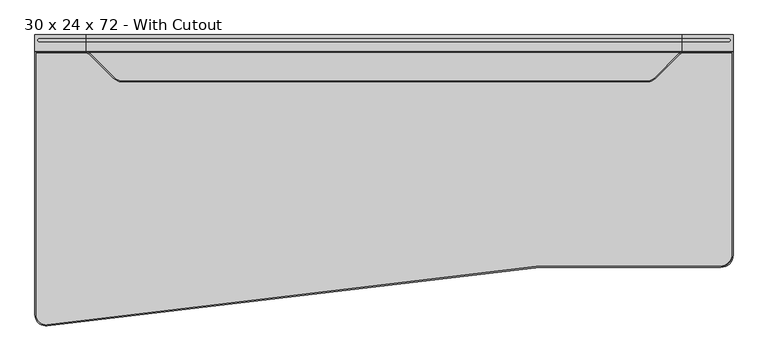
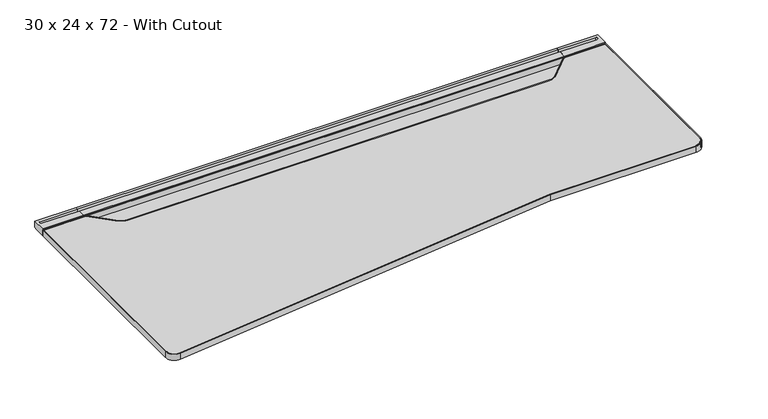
"""IFC4 building model written with IfcOpenShell, lengths in millimetres: furniture geometry, Steelcase - C Scape - Desking - Left Hand Transition - Non Sliding : 30 x 24 x 72 - With Cutout."""

from ifc_helpers import new_model, si_unit, point, frame, frame_2d, origin, place, context, project, spatial, polyline, circle_curve, trimmed, segment, composite_curve, outline, extrude, faceted_brep, source, transform, mapped, element, save
from ifc_brep_helpers import plane_surface, cylinder_surface, revolved_surface, advanced_brep


def furniture_30_x_24_x_72_with_cutout_2aaaa9fd(model_context):
    return source(origin(), model_context, "Body", "SolidModel", [
        advanced_brep(
        [(131.4322876, -45.3135132, 703.3768), (131.4322876, -4.0331902, 703.3768), (131.4322876, -3.2278472, 705.1038636), (131.4322876, 0.0, 705.1038636), (131.4322876, 0.0, 725.932), (131.4322876, -8.5111084, 725.932), (131.4322876, -8.5111084, 713.486), (131.4322876, -19.3290527, 713.486), (131.4322876, -19.3290527, 725.932), (131.4322876, -42.7750923, 725.932), (131.4322876, -42.7750923, 722.4268341), (131.4322876, -45.3135132, 722.4268341), (-1.5875, -45.3135132, 703.3768), (-1.5875, -45.3135132, 722.4268341), (-1.5875, -42.7750923, 722.4268341), (-1.5875, -42.7750923, 725.932), (-1.5875, 0.0, 725.932), (-1.5875, 0.0, 705.1038636), (-1.5875, -3.2278472, 705.1038636), (-1.5875, -4.0331902, 703.3768), (10.1745728, -19.3290527, 725.932), (10.1745728, -8.5111084, 725.932), (10.1745728, -8.5111084, 713.486), (10.1745728, -19.3290527, 713.486)],
        [
            (0, 1),
            (1, 2),
            (2, 3),
            (3, 4),
            (4, 5),
            (5, 6),
            (6, 7),
            (7, 8),
            (8, 9),
            (9, 10),
            (10, 11),
            (11, 0),
            (12, 13),
            (13, 14),
            (14, 15),
            (15, 16),
            (16, 17),
            (17, 18),
            (18, 19),
            (19, 12),
            (0, 12),
            (19, 1),
            (18, 2),
            (17, 3),
            (16, 4),
            (15, 9),
            (8, 20),
            (20, 21, circle_curve(frame((10.1745728, -13.9200806, 725.932), z_axis=(0.0, 0.0, -1.0), x_axis=(1.0, 0.0, 0.0)), 5.4089722)),
            (21, 5),
            (14, 10),
            (13, 11),
            (6, 22),
            (22, 23, circle_curve(frame((10.1745728, -13.9200806, 713.486), z_axis=(0.0, 0.0, 1.0), x_axis=(1.0, 0.0, 0.0)), 5.4089722)),
            (23, 7),
            (21, 22),
            (20, 23),
        ],
        [
            plane_surface(frame((131.4322876, -45.3135132, 703.3768), z_axis=(1.0, 0.0, 0.0), x_axis=(0.0, 1.0, 0.0))),
            plane_surface(frame((-1.5875, -45.3135132, 703.3768), z_axis=(-1.0, 0.0, 0.0), x_axis=(0.0, -1.0, 0.0))),
            plane_surface(frame((131.4322876, -45.3135132, 703.3768), z_axis=(0.0, 0.0, -1.0), x_axis=(-1.0, 0.0, 0.0))),
            plane_surface(frame((131.4322876, -4.0331902, 703.3768), z_axis=(0.0, 0.9063077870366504, -0.4226182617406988), x_axis=(-1.0, 0.0, 0.0))),
            plane_surface(frame((131.4322876, -3.2278472, 705.1038636), z_axis=(0.0, 0.0, -1.0), x_axis=(-1.0, 0.0, 0.0))),
            plane_surface(frame((131.4322876, 0.0, 705.1038636), z_axis=(0.0, 1.0, 0.0), x_axis=(-1.0, 0.0, 0.0))),
            plane_surface(frame((131.4322876, 0.0, 725.932), z_axis=(0.0, 0.0, 1.0), x_axis=(-1.0, 0.0, 0.0))),
            plane_surface(frame((131.4322876, -42.7750923, 725.932), z_axis=(0.0, -1.0, 0.0), x_axis=(-1.0, 0.0, 0.0))),
            plane_surface(frame((131.4322876, -42.7750923, 722.4268341), z_axis=(0.0, 0.0, 1.0), x_axis=(-1.0, 0.0, 0.0))),
            plane_surface(frame((131.4322876, -45.3135132, 722.4268341), z_axis=(0.0, -1.0, 0.0), x_axis=(-1.0, 0.0, 0.0))),
            plane_surface(frame((10.1745728, -8.5111084, 713.486), z_axis=(0.0, 0.0, 1.0), x_axis=(1.0, 0.0, 0.0))),
            plane_surface(frame((131.4322876, -8.5111084, 731.2180541), z_axis=(0.0, -1.0, 0.0), x_axis=(0.0, 0.0, -1.0))),
            revolved_surface(polyline([(15.583545, -13.9200806, 725.932), (15.583545, -13.9200806, 713.486)]), (10.1745728, -13.9200806, 713.486), (0.0, 0.0, 1.0)),
            plane_surface(frame((10.1745728, -19.3290527, 731.2180541), z_axis=(0.0, 1.0, 0.0), x_axis=(0.0, 0.0, -1.0))),
        ],
        [
            (0, [[1, 2, 3, 4, 5, 6, 7, 8, 9, 10, 11, 12]]),
            (1, [[13, 14, 15, 16, 17, 18, 19, 20]]),
            (2, [[-1, 21, -20, 22]]),
            (3, [[-2, -22, -19, 23]]),
            (4, [[-3, -23, -18, 24]]),
            (5, [[-4, -24, -17, 25]]),
            (6, [[-16, 26, -9, 27, 28, 29, -5, -25]]),
            (7, [[-10, -26, -15, 30]]),
            (8, [[-11, -30, -14, 31]]),
            (9, [[-12, -31, -13, -21]]),
            (10, [[32, 33, 34, -7]]),
            (11, [[-32, -6, -29, 35]]),
            (12, [[-33, -35, -28, 36]]),
            (13, [[-34, -36, -27, -8]]),
        ],
    ),
        faceted_brep([(17.4632632, -565.0752923, 700.7093833), (31.7383728, -565.0752923, 693.4200291), (113.1775879, -565.0752923, 693.4200291), (115.7981301, -565.0752923, 679.3263935), (131.4322876, -565.0752923, 679.3263935), (131.4322876, -565.0752923, 703.3768), (17.4632632, -565.0752923, 703.3768), (17.4632632, -4.0331902, 700.7093833), (17.4632632, -4.0331902, 703.3768), (131.4322876, -4.0331902, 703.3768), (131.4322876, -4.0331902, 629.3866), (125.0838347, -4.0331902, 629.3866), (113.1775879, -4.0331902, 693.4200291), (31.7383728, -4.0331902, 693.4200291), (125.0838347, -364.1172546, 629.3866), (117.9634051, -376.5599397, 667.6812472), (131.4322876, -364.1172546, 629.3866), (131.4322876, -376.5599397, 667.6812472)], [[[0, 1, 2, 3, 4, 5, 6]], [[7, 8, 9, 10, 11, 12, 13]], [[1, 0, 7, 13]], [[2, 1, 13, 12]], [[12, 11, 14, 15, 3, 2]], [[11, 10, 16, 14]], [[10, 9, 5, 4, 17, 16]], [[6, 5, 9, 8]], [[0, 6, 8, 7]], [[15, 17, 4, 3]], [[17, 15, 14, 16]]]),
        extrude(outline(composite_curve([segment(polyline([(-293.5216187, 657.3775839), (-559.0022133, 680.1371551)]), True, "CONTINUOUS"), segment(trimmed(circle_curve(frame_2d((-558.7581271, 682.9843154)), 2.8576039), [point((-559.0022133, 680.1371551))], [point((-561.5383043, 682.3236226))], False, "CARTESIAN"), True, "CONTINUOUS"), segment(polyline([(-561.5383043, 682.3236226), (-566.0887542, 701.4717905), (-557.8334441, 701.4717905), (-557.8334441, 703.3768), (-442.6683806, 703.3768), (-442.6683806, 696.3917953), (-318.2108611, 696.3917953), (-318.2108611, 703.3768), (-293.5216187, 703.3768), (-293.5216187, 657.3775839)]), True, "CONTINUOUS")], self_intersect=False)), frame((877.824, 0.0, 0.0), z_axis=(1.0, 0.0, 0.0), x_axis=(0.0, 1.0, 0.0)), (0.0, 0.0, 1.0), 73.152),
        advanced_brep(
        [(1694.1927124, -45.3135132, 703.3768), (1694.1927124, -45.3135132, 722.4268341), (1694.1927124, -42.7750923, 722.4268341), (1694.1927124, -42.7750923, 725.932), (1694.1927124, -19.3290527, 725.932), (1694.1927124, -19.3290527, 713.486), (1694.1927124, -8.5111084, 713.486), (1694.1927124, -8.5111084, 725.932), (1694.1927124, 0.0, 725.932), (1694.1927124, 0.0, 705.1038636), (1694.1927124, -3.2278472, 705.1038636), (1694.1927124, -4.0331902, 703.3768), (1827.2125, -45.3135132, 703.3768), (1827.2125, -4.0331902, 703.3768), (1827.2125, -3.2278472, 705.1038636), (1827.2125, 0.0, 705.1038636), (1827.2125, 0.0, 725.932), (1827.2125, -42.7750923, 725.932), (1827.2125, -42.7750923, 722.4268341), (1827.2125, -45.3135132, 722.4268341), (1815.4504272, -8.5111084, 725.932), (1815.4504272, -19.3290527, 725.932), (1815.4504272, -19.3290527, 713.486), (1815.4504272, -8.5111084, 713.486)],
        [
            (0, 1),
            (1, 2),
            (2, 3),
            (3, 4),
            (4, 5),
            (5, 6),
            (6, 7),
            (7, 8),
            (8, 9),
            (9, 10),
            (10, 11),
            (11, 0),
            (12, 13),
            (13, 14),
            (14, 15),
            (15, 16),
            (16, 17),
            (17, 18),
            (18, 19),
            (19, 12),
            (11, 13),
            (12, 0),
            (10, 14),
            (9, 15),
            (8, 16),
            (7, 20),
            (20, 21, circle_curve(frame((1815.4504272, -13.9200806, 725.932), z_axis=(0.0, 0.0, -1.0), x_axis=(-1.0, 0.0, 0.0)), 5.4089722)),
            (21, 4),
            (3, 17),
            (2, 18),
            (1, 19),
            (5, 22),
            (22, 23, circle_curve(frame((1815.4504272, -13.9200806, 713.486), z_axis=(0.0, 0.0, 1.0), x_axis=(-1.0, 0.0, 0.0)), 5.4089722)),
            (23, 6),
            (23, 20),
            (22, 21),
        ],
        [
            plane_surface(frame((1694.1927124, -45.3135132, 703.3768), z_axis=(-1.0, 0.0, 0.0), x_axis=(0.0, 1.0, 0.0))),
            plane_surface(frame((1827.2125, -45.3135132, 703.3768), z_axis=(1.0, 0.0, 0.0), x_axis=(0.0, -1.0, 0.0))),
            plane_surface(frame((1694.1927124, -45.3135132, 703.3768), z_axis=(0.0, 0.0, -1.0), x_axis=(1.0, 0.0, 0.0))),
            plane_surface(frame((1694.1927124, -4.0331902, 703.3768), z_axis=(0.0, 0.9063077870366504, -0.4226182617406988), x_axis=(1.0, 0.0, 0.0))),
            plane_surface(frame((1694.1927124, -3.2278472, 705.1038636), z_axis=(0.0, 0.0, -1.0), x_axis=(1.0, 0.0, 0.0))),
            plane_surface(frame((1694.1927124, 0.0, 705.1038636), z_axis=(0.0, 1.0, 0.0), x_axis=(1.0, 0.0, 0.0))),
            plane_surface(frame((1694.1927124, 0.0, 725.932), z_axis=(0.0, 0.0, 1.0), x_axis=(1.0, 0.0, 0.0))),
            plane_surface(frame((1694.1927124, -42.7750923, 725.932), z_axis=(0.0, -1.0, 0.0), x_axis=(1.0, 0.0, 0.0))),
            plane_surface(frame((1694.1927124, -42.7750923, 722.4268341), z_axis=(0.0, 0.0, 1.0), x_axis=(1.0, 0.0, 0.0))),
            plane_surface(frame((1694.1927124, -45.3135132, 722.4268341), z_axis=(0.0, -1.0, 0.0), x_axis=(1.0, 0.0, 0.0))),
            plane_surface(frame((1815.4504272, -8.5111084, 713.486), z_axis=(0.0, 0.0, 1.0), x_axis=(-1.0, 0.0, 0.0))),
            plane_surface(frame((1694.1927124, -8.5111084, 731.2180541), z_axis=(0.0, -1.0, 0.0), x_axis=(0.0, 0.0, -1.0))),
            revolved_surface(polyline([(1810.0414549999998, -13.9200806, 725.932), (1810.0414549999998, -13.9200806, 713.486)]), (1815.4504272, -13.9200806, 713.486), (0.0, 0.0, 1.0)),
            plane_surface(frame((1815.4504272, -19.3290527, 731.2180541), z_axis=(0.0, 1.0, 0.0), x_axis=(0.0, 0.0, -1.0))),
        ],
        [
            (0, [[1, 2, 3, 4, 5, 6, 7, 8, 9, 10, 11, 12]]),
            (1, [[13, 14, 15, 16, 17, 18, 19, 20]]),
            (2, [[21, -13, 22, -12]]),
            (3, [[23, -14, -21, -11]]),
            (4, [[24, -15, -23, -10]]),
            (5, [[25, -16, -24, -9]]),
            (6, [[-25, -8, 26, 27, 28, -4, 29, -17]]),
            (7, [[30, -18, -29, -3]]),
            (8, [[31, -19, -30, -2]]),
            (9, [[-22, -20, -31, -1]]),
            (10, [[-6, 32, 33, 34]]),
            (11, [[35, -26, -7, -34]]),
            (12, [[36, -27, -35, -33]]),
            (13, [[-5, -28, -36, -32]]),
        ],
    ),
        faceted_brep([(1808.1617368, -565.0752923, 700.7093833), (1808.1617368, -565.0752923, 703.3768), (1694.1927124, -565.0752923, 703.3768), (1694.1927124, -565.0752923, 679.3263935), (1709.8268699, -565.0752923, 679.3263935), (1712.4474121, -565.0752923, 693.4200291), (1793.8866272, -565.0752923, 693.4200291), (1808.1617368, -4.0331902, 700.7093833), (1793.8866272, -4.0331902, 693.4200291), (1712.4474121, -4.0331902, 693.4200291), (1700.5411653, -4.0331902, 629.3866), (1694.1927124, -4.0331902, 629.3866), (1694.1927124, -4.0331902, 703.3768), (1808.1617368, -4.0331902, 703.3768), (1707.6615949, -376.5599397, 667.6812472), (1700.5411653, -364.1172546, 629.3866), (1694.1927124, -364.1172546, 629.3866), (1694.1927124, -376.5599397, 667.6812472)], [[[0, 1, 2, 3, 4, 5, 6]], [[7, 8, 9, 10, 11, 12, 13]], [[6, 8, 7, 0]], [[5, 9, 8, 6]], [[9, 5, 4, 14, 15, 10]], [[10, 15, 16, 11]], [[11, 16, 17, 3, 2, 12]], [[1, 13, 12, 2]], [[0, 7, 13, 1]], [[14, 4, 3, 17]], [[17, 16, 15, 14]]]),
        extrude(outline(polyline([(-8.5111084, 725.932), (0.0, 725.932), (0.0, 705.1038636), (-3.2278472, 705.1038636), (-4.0331902, 703.3768), (-45.3135132, 703.3768), (-45.3135132, 722.4268341), (-42.7750923, 722.4268341), (-42.7750923, 725.932), (-19.3290527, 725.932), (-19.3290527, 713.486), (-8.5111084, 713.486), (-8.5111084, 725.932)])), frame((131.4322876, 0.0, 0.0), z_axis=(1.0, 0.0, 0.0), x_axis=(0.0, 1.0, 0.0)), (0.0, 0.0, 1.0), 1562.7604248),
        extrude(outline(polyline([(1694.1927124, -4.0331902), (1694.1927124, -293.5216187), (131.4322876, -293.5216187), (131.4322876, -4.0331902), (1694.1927124, -4.0331902)])), frame((0.0, 0.0, 629.3866), z_axis=(0.0, 0.0, 1.0), x_axis=(1.0, 0.0, 0.0)), (0.0, 0.0, 1.0), 73.9902),
        extrude(outline(composite_curve([segment(polyline([(1.4605, -48.3660689), (130.8372608, -48.3660689)]), True, "CONTINUOUS"), segment(trimmed(circle_curve(frame_2d((130.8372608, -64.9605938)), 16.5945249), [point((130.8372608, -48.3660689))], [point((142.5713581, -53.2264889))], False, "CARTESIAN"), True, "CONTINUOUS"), segment(polyline([(142.5713581, -53.2264889), (202.6994608, -113.3545523)]), True, "CONTINUOUS"), segment(trimmed(circle_curve(frame_2d((229.6402204, -86.4137752)), 38.1), [point((202.6994608, -113.3545523))], [point((229.6402204, -124.5137752))], True, "CARTESIAN"), True, "CONTINUOUS"), segment(polyline([(229.6402204, -124.5137752), (1599.1598212, -124.5137752)]), True, "CONTINUOUS"), segment(trimmed(circle_curve(frame_2d((1599.1598212, -86.4137752)), 38.1), [point((1599.1598212, -124.5137752))], [point((1626.1005905, -113.3545426))], True, "CARTESIAN"), True, "CONTINUOUS"), segment(polyline([(1626.1005905, -113.3545426), (1687.7230199, -51.7321087)]), True, "CONTINUOUS"), segment(trimmed(circle_curve(frame_2d((1695.45, -58.9180007)), 10.5519318), [point((1687.7230199, -51.7321087))], [point((1695.45, -48.3660689))], False, "CARTESIAN"), True, "CONTINUOUS"), segment(polyline([(1695.45, -48.3660689), (1824.1645, -48.3660689), (1824.1645, -574.7990234)]), True, "CONTINUOUS"), segment(trimmed(circle_curve(frame_2d((1792.4145, -574.7990234)), 31.75), [point((1824.1645, -574.7990234))], [point((1792.4145, -606.5490234))], False, "CARTESIAN"), True, "CONTINUOUS"), segment(polyline([(1792.4145, -606.5490234), (1320.7997595, -606.5490234), (29.8636568, -759.8823654)]), True, "CONTINUOUS"), segment(trimmed(circle_curve(frame_2d((26.8605, -734.6605286)), 25.4), [point((29.8636568, -759.8823654))], [point((1.4605, -734.6605286))], False, "CARTESIAN"), True, "CONTINUOUS"), segment(polyline([(1.4605, -734.6605286), (1.4605, -48.3660689)]), True, "CONTINUOUS")], self_intersect=False)), frame((0.0, 0.0, 703.3768), z_axis=(0.0, 0.0, 1.0), x_axis=(1.0, 0.0, 0.0)), (0.0, 0.0, 1.0), 20.5232),
        advanced_brep(
        [(1824.1625156, -577.8497165, 703.3768), (1795.4632087, -606.5490234, 703.3768), (1795.4632087, -606.5490234, 723.9), (1824.1625156, -577.8497165, 723.9), (1827.2134922, -577.8497165, 723.9), (1795.4632087, -609.6, 723.9), (1795.4632087, -609.6, 703.3768), (1827.2134922, -577.8497165, 703.3768), (1824.1625156, -48.3666358, 723.9), (1824.1625156, -48.3666358, 703.3768), (1827.2134922, -45.3156593, 703.3768), (1827.2134922, -45.3156593, 723.9), (1695.45, -48.3666358, 723.9), (1695.45, -48.3666358, 703.3768), (1695.45, -45.3156593, 703.3768), (1695.45, -45.3156593, 723.9), (1687.7234351, -51.7324948, 703.3768), (1687.7234351, -51.7324948, 723.9), (1685.4892627, -49.6547721, 723.9), (1685.4892627, -49.6547721, 703.3768), (1624.9189809, -114.5369541, 723.9), (1624.9189809, -114.5369541, 703.3768), (1622.7616146, -112.3795879, 703.3768), (1622.7616146, -112.3795879, 723.9), (1600.8314365, -124.5143421, 703.3768), (1600.8314365, -124.5143421, 723.9), (1600.8314365, -121.4633656, 723.9), (1600.8314365, -121.4633656, 703.3768), (227.9685947, -124.5143421, 723.9), (227.9685947, -124.5143421, 703.3768), (227.9685947, -121.4633656, 703.3768), (227.9685947, -121.4633656, 723.9), (203.8810781, -114.5369706, 703.3768), (203.8810781, -114.5369706, 723.9), (206.0384436, -112.3796037, 723.9), (206.0384436, -112.3796037, 703.3768), (141.1539317, -51.8098652, 723.9), (141.1539317, -51.8098652, 703.3768), (143.3112972, -49.6524983, 703.3768), (143.3112972, -49.6524983, 723.9), (131.4323173, -48.3666358, 703.3768), (131.4323173, -48.3666358, 723.9), (131.2816695, -45.3156593, 723.9), (131.2816695, -45.3156593, 703.3768), (1.461067, -48.3666358, 723.9), (1.461067, -48.3666358, 703.3768), (-1.5899096, -45.3156593, 703.3768), (-1.5899096, -45.3156593, 723.9), (1.461067, -734.6605286, 723.9), (1.461067, -734.6605286, 703.3768), (-1.5899096, -734.6605286, 703.3768), (-1.5899096, -734.6605286, 723.9), (29.8635898, -759.8818024, 703.3768), (29.8635898, -759.8818024, 723.9), (30.2243205, -762.9113785, 723.9), (30.2243205, -762.9113785, 703.3768), (1320.9755224, -609.6, 723.9), (1320.7949643, -606.5490234, 723.9), (1320.7949643, -606.5490234, 703.3768), (1320.9755224, -609.6, 703.3768)],
        [
            (0, 1, circle_curve(frame((1795.4632087, -577.8497165, 703.3768), z_axis=(0.0, 0.0, -1.0), x_axis=(0.0, -1.0, 0.0)), 28.6993069)),
            (1, 2),
            (2, 3, circle_curve(frame((1795.4632087, -577.8497165, 723.9), z_axis=(0.0, 0.0, 1.0), x_axis=(0.0, -1.0, 0.0)), 28.6993069)),
            (3, 0),
            (4, 5, circle_curve(frame((1795.4632087, -577.8497165, 723.9), z_axis=(0.0, 0.0, -1.0), x_axis=(0.0, -1.0, 0.0)), 31.7502835)),
            (5, 6),
            (6, 7, circle_curve(frame((1795.4632087, -577.8497165, 703.3768), z_axis=(0.0, 0.0, 1.0), x_axis=(0.0, -1.0, 0.0)), 31.7502835)),
            (7, 4),
            (3, 8),
            (8, 9),
            (9, 0),
            (7, 10),
            (10, 11),
            (11, 4),
            (8, 12),
            (12, 13),
            (13, 9),
            (10, 14),
            (14, 15),
            (15, 11),
            (16, 13, circle_curve(frame((1695.45, -58.9180007, 703.3768), z_axis=(0.0, 0.0, -1.0), x_axis=(0.0, 1.0, 0.0)), 10.5513648)),
            (12, 17, circle_curve(frame((1695.45, -58.9180007, 723.9), z_axis=(0.0, 0.0, 1.0), x_axis=(0.0, 1.0, 0.0)), 10.5513648)),
            (17, 16),
            (18, 15, circle_curve(frame((1695.45, -58.9180007, 723.9), z_axis=(0.0, 0.0, -1.0), x_axis=(0.0, 1.0, 0.0)), 13.6023414)),
            (14, 19, circle_curve(frame((1695.45, -58.9180007, 703.3768), z_axis=(0.0, 0.0, 1.0), x_axis=(0.0, 1.0, 0.0)), 13.6023414)),
            (19, 18),
            (17, 20),
            (20, 21),
            (21, 16),
            (19, 22),
            (22, 23),
            (23, 18),
            (24, 21, circle_curve(frame((1600.8314365, -90.4494114, 703.3768), z_axis=(0.0, 0.0, 1.0), x_axis=(0.7071068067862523, -0.7071067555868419, 0.0)), 34.0649308)),
            (20, 25, circle_curve(frame((1600.8314365, -90.4494114, 723.9), z_axis=(0.0, 0.0, -1.0), x_axis=(0.7071068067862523, -0.7071067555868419, 0.0)), 34.0649308)),
            (25, 24),
            (26, 23, circle_curve(frame((1600.8314365, -90.4494114, 723.9), z_axis=(0.0, 0.0, 1.0), x_axis=(0.7071068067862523, -0.7071067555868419, 0.0)), 31.0139542)),
            (22, 27, circle_curve(frame((1600.8314365, -90.4494114, 703.3768), z_axis=(0.0, 0.0, -1.0), x_axis=(0.7071068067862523, -0.7071067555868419, 0.0)), 31.0139542)),
            (27, 26),
            (25, 28),
            (28, 29),
            (29, 24),
            (27, 30),
            (30, 31),
            (31, 26),
            (32, 29, circle_curve(frame((227.9685947, -90.4494383, 703.3768), z_axis=(0.0, 0.0, 1.0), x_axis=(0.0, -1.0, 0.0)), 34.0649039)),
            (28, 33, circle_curve(frame((227.9685947, -90.4494383, 723.9), z_axis=(0.0, 0.0, -1.0), x_axis=(0.0, -1.0, 0.0)), 34.0649039)),
            (33, 32),
            (34, 31, circle_curve(frame((227.9685947, -90.4494383, 723.9), z_axis=(0.0, 0.0, 1.0), x_axis=(0.0, -1.0, 0.0)), 31.0139273)),
            (30, 35, circle_curve(frame((227.9685947, -90.4494383, 703.3768), z_axis=(0.0, 0.0, -1.0), x_axis=(0.0, -1.0, 0.0)), 31.0139273)),
            (35, 34),
            (33, 36),
            (36, 37),
            (37, 32),
            (35, 38),
            (38, 39),
            (39, 34),
            (40, 37, circle_curve(frame((132.6831504, -60.280652, 703.3768), z_axis=(0.0, 0.0, -1.0), x_axis=(0.7071065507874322, 0.7071070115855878, 0.0)), 11.9794977)),
            (36, 41, circle_curve(frame((132.6831504, -60.280652, 723.9), z_axis=(0.0, 0.0, 1.0), x_axis=(0.7071065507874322, 0.7071070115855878, 0.0)), 11.9794977)),
            (41, 40),
            (42, 39, circle_curve(frame((132.6831504, -60.280652, 723.9), z_axis=(0.0, 0.0, -1.0), x_axis=(0.7071065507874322, 0.7071070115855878, 0.0)), 15.0304743)),
            (38, 43, circle_curve(frame((132.6831504, -60.280652, 703.3768), z_axis=(0.0, 0.0, 1.0), x_axis=(0.7071065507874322, 0.7071070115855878, 0.0)), 15.0304743)),
            (43, 42),
            (41, 44),
            (44, 45),
            (45, 40),
            (43, 46),
            (46, 47),
            (47, 42),
            (44, 48),
            (48, 49),
            (49, 45),
            (46, 50),
            (50, 51),
            (51, 47),
            (52, 49, circle_curve(frame((26.8605, -734.6605286, 703.3768), z_axis=(0.0, 0.0, -1.0), x_axis=(-1.0, 0.0, 0.0)), 25.399433)),
            (48, 53, circle_curve(frame((26.8605, -734.6605286, 723.9), z_axis=(0.0, 0.0, 1.0), x_axis=(-1.0, 0.0, 0.0)), 25.399433)),
            (53, 52),
            (54, 51, circle_curve(frame((26.8605, -734.6605286, 723.9), z_axis=(0.0, 0.0, -1.0), x_axis=(-1.0, 0.0, 0.0)), 28.4504096)),
            (50, 55, circle_curve(frame((26.8605, -734.6605286, 703.3768), z_axis=(0.0, 0.0, 1.0), x_axis=(-1.0, 0.0, 0.0)), 28.4504096)),
            (55, 54),
            (54, 56),
            (56, 5),
            (57, 53),
            (2, 57),
            (57, 58),
            (58, 52),
            (59, 55),
            (6, 59),
            (58, 1),
            (59, 56),
        ],
        [
            revolved_surface(polyline([(1795.4632087, -606.5490234, 723.9), (1795.4632087, -606.5490234, 703.3768)]), (1795.4632087, -577.8497165, 0.0), (0.0, 0.0, 1.0)),
            cylinder_surface(frame((1795.4632087, -577.8497165, 0.0), z_axis=(0.0, 0.0, 1.0), x_axis=(0.0, -1.0, 0.0)), 31.7502835),
            plane_surface(frame((1824.1625156, -577.8497165, 723.9), z_axis=(-1.0, 0.0, 0.0), x_axis=(0.0, 1.0, 0.0))),
            plane_surface(frame((1827.2134922, -577.8497165, 703.3768), z_axis=(1.0, 0.0, 0.0), x_axis=(0.0, 1.0, 0.0))),
            plane_surface(frame((1824.1625156, -48.3666358, 723.9), z_axis=(0.0, -1.0, 0.0), x_axis=(-1.0, 0.0, 0.0))),
            plane_surface(frame((1827.2134922, -45.3156593, 703.3768), z_axis=(0.0, 1.0, 0.0), x_axis=(-1.0, 0.0, 0.0))),
            revolved_surface(polyline([(1695.45, -48.3666359, 723.9), (1695.45, -48.3666359, 703.3768)]), (1695.45, -58.9180007, 0.0), (0.0, 0.0, 1.0)),
            cylinder_surface(frame((1695.45, -58.9180007, 0.0), z_axis=(0.0, 0.0, 1.0), x_axis=(0.0, 1.0, 0.0)), 13.6023414),
            plane_surface(frame((1687.7234354, -51.7324951, 723.9), z_axis=(0.7071068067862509, -0.7071067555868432, 0.0), x_axis=(-0.7071067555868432, -0.7071068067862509, 0.0))),
            plane_surface(frame((1685.4877928, -49.6534052, 703.3768), z_axis=(-0.7071068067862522, 0.707106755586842, 0.0), x_axis=(-0.707106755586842, -0.7071068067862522, 0.0))),
            cylinder_surface(frame((1600.8314365, -90.4494114, 0.0), z_axis=(0.0, 0.0, -1.0), x_axis=(0.7071068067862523, -0.7071067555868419, 0.0)), 34.0649308),
            revolved_surface(polyline([(1622.7616146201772, -112.37958793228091, 703.3768), (1622.7616146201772, -112.37958793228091, 723.9)]), (1600.8314365, -90.4494114, 0.0), (0.0, 0.0, -1.0)),
            plane_surface(frame((1600.8314365, -124.5143421, 723.9), z_axis=(0.0, -1.0, 0.0), x_axis=(-1.0, 0.0, 0.0))),
            plane_surface(frame((1600.8314365, -121.4633656, 703.3768), z_axis=(0.0, 1.0, 0.0), x_axis=(-1.0, 0.0, 0.0))),
            cylinder_surface(frame((227.9685947, -90.4494383, 0.0), z_axis=(0.0, 0.0, -1.0), x_axis=(0.0, -1.0, 0.0)), 34.0649039),
            revolved_surface(polyline([(227.9685947, -121.4633656, 703.3768), (227.9685947, -121.4633656, 723.9)]), (227.9685947, -90.4494383, 0.0), (0.0, 0.0, -1.0)),
            plane_surface(frame((203.8810781, -114.5369706, 723.9), z_axis=(-0.7071065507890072, -0.7071070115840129, 0.0), x_axis=(-0.7071070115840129, 0.7071065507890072, 0.0))),
            plane_surface(frame((206.0384436, -112.3796037, 703.3768), z_axis=(0.7071065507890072, 0.7071070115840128, 0.0), x_axis=(-0.7071070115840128, 0.7071065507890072, 0.0))),
            revolved_surface(polyline([(141.15393169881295, -51.80986518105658, 723.9), (141.15393169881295, -51.80986518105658, 703.3768)]), (132.6831504, -60.280652, 0.0), (0.0, 0.0, 1.0)),
            cylinder_surface(frame((132.6831504, -60.280652, 0.0), z_axis=(0.0, 0.0, 1.0), x_axis=(0.7071065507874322, 0.7071070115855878, 0.0)), 15.0304743),
            plane_surface(frame((131.4323173, -48.3666358, 723.9), z_axis=(0.0, -1.0, 0.0), x_axis=(-1.0, 0.0, 0.0))),
            plane_surface(frame((131.2816695, -45.3156593, 703.3768), z_axis=(0.0, 1.0, 0.0), x_axis=(-1.0, 0.0, 0.0))),
            plane_surface(frame((1.461067, -48.3666358, 723.9), z_axis=(1.0, 0.0, 0.0), x_axis=(0.0, -1.0, 0.0))),
            plane_surface(frame((-1.5899096, -45.3156593, 703.3768), z_axis=(-1.0, 0.0, 0.0), x_axis=(0.0, -1.0, 0.0))),
            revolved_surface(polyline([(1.461067, -734.6605286, 723.9), (1.461067, -734.6605286, 703.3768)]), (26.8605, -734.6605286, 0.0), (0.0, 0.0, 1.0)),
            cylinder_surface(frame((26.8605, -734.6605286, 0.0), z_axis=(0.0, 0.0, 1.0), x_axis=(-1.0, 0.0, 0.0)), 28.4504096),
            plane_surface(frame((30.2243205, -762.9113786, 723.9), z_axis=(0.0, 0.0, 1.0), x_axis=(0.9930197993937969, 0.11794777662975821, 0.0))),
            plane_surface(frame((29.8635898, -759.8818024, 723.9), z_axis=(-0.11794777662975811, 0.9930197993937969, 0.0), x_axis=(0.9930197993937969, 0.11794777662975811, 0.0))),
            plane_surface(frame((29.8635898, -759.8818024, 703.3768), z_axis=(0.0, 0.0, -1.0), x_axis=(0.9930197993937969, 0.11794777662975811, 0.0))),
            plane_surface(frame((30.2243205, -762.9113786, 703.3768), z_axis=(0.1179477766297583, -0.9930197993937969, 0.0), x_axis=(0.9930197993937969, 0.1179477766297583, 0.0))),
            plane_surface(frame((1320.7949643, -606.5490234, 723.9), z_axis=(0.0, 1.0, 0.0), x_axis=(1.0, 0.0, 0.0))),
            plane_surface(frame((1320.9755224, -609.6, 703.3768), z_axis=(0.0, -1.0, 0.0), x_axis=(1.0, 0.0, 0.0))),
        ],
        [
            (0, [[1, 2, 3, 4]]),
            (1, [[5, 6, 7, 8]]),
            (2, [[-4, 9, 10, 11]]),
            (3, [[-8, 12, 13, 14]]),
            (4, [[-10, 15, 16, 17]]),
            (5, [[-13, 18, 19, 20]]),
            (6, [[21, -16, 22, 23]]),
            (7, [[24, -19, 25, 26]]),
            (8, [[-23, 27, 28, 29]]),
            (9, [[-26, 30, 31, 32]]),
            (10, [[33, -28, 34, 35]]),
            (11, [[36, -31, 37, 38]]),
            (12, [[-35, 39, 40, 41]]),
            (13, [[-38, 42, 43, 44]]),
            (14, [[45, -40, 46, 47]]),
            (15, [[48, -43, 49, 50]]),
            (16, [[-47, 51, 52, 53]]),
            (17, [[-50, 54, 55, 56]]),
            (18, [[57, -52, 58, 59]]),
            (19, [[60, -55, 61, 62]]),
            (20, [[-59, 63, 64, 65]]),
            (21, [[-62, 66, 67, 68]]),
            (22, [[-64, 69, 70, 71]]),
            (23, [[-67, 72, 73, 74]]),
            (24, [[75, -70, 76, 77]]),
            (25, [[78, -73, 79, 80]]),
            (26, [[-74, -78, 81, 82, -5, -14, -20, -24, -32, -36, -44, -48, -56, -60, -68], [83, -76, -69, -63, -58, -51, -46, -39, -34, -27, -22, -15, -9, -3, 84]]),
            (27, [[-77, -83, 85, 86]]),
            (28, [[87, -79, -72, -66, -61, -54, -49, -42, -37, -30, -25, -18, -12, -7, 88], [-71, -75, -86, 89, -1, -11, -17, -21, -29, -33, -41, -45, -53, -57, -65]]),
            (29, [[-80, -87, 90, -81]]),
            (30, [[-85, -84, -2, -89]]),
            (31, [[-90, -88, -6, -82]]),
        ],
    ),
    ])


if __name__ == "__main__":
    model = new_model("IFC4")
    model_context = context("Model", 3, world=origin())
    ifc_project = project(units=[si_unit("LENGTHUNIT", "METRE", prefix="MILLI")], contexts=[model_context])
    site = spatial("IfcSite", under=ifc_project)
    building = spatial("IfcBuilding", under=site)
    placement = place(None, origin())
    furniture_30_x_24_x_72_with_cutout_shape = furniture_30_x_24_x_72_with_cutout_2aaaa9fd(model_context)
    element("IfcFurniture", 1, ObjectType="Steelcase - C Scape - Desking - Left Hand Transition - Non Sliding : 30 x 24 x 72 - With Cutout", at=placement, inside=building, context=model_context, shape_type="MappedRepresentation", body=[
        mapped(furniture_30_x_24_x_72_with_cutout_shape, transform((0.0, 0.0, 0.0), x_axis=(1.0, 0.0, 0.0), y_axis=(0.0, 1.0, 0.0), z_axis=(0.0, 0.0, 1.0))),
    ])
    save(model, "model.ifc")
